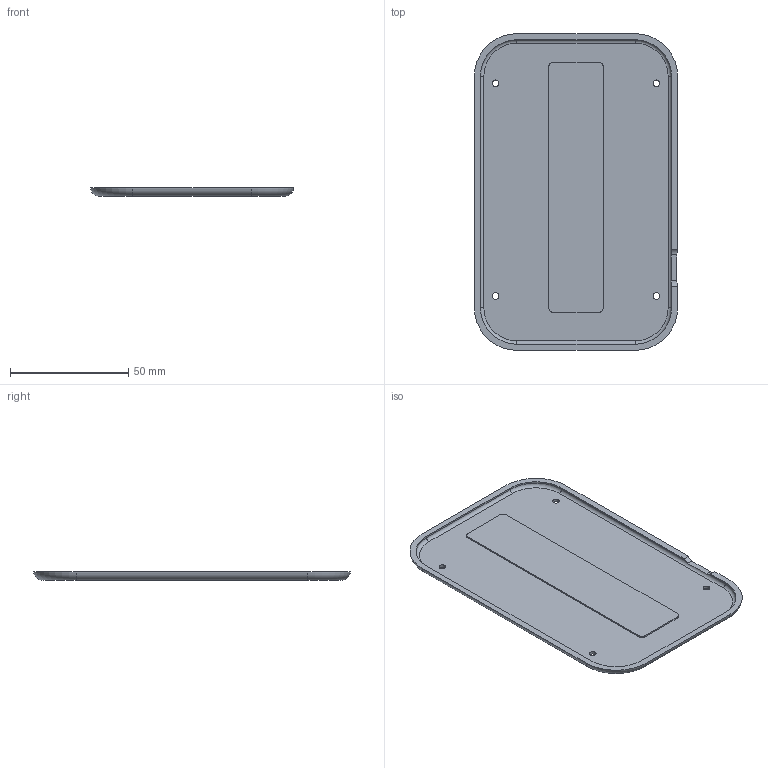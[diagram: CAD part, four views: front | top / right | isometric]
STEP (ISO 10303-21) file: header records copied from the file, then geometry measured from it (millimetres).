
FILE_DESCRIPTION(('Open CASCADE Model'),'2;1');
FILE_NAME('Open CASCADE Shape Model','2026-09-04T20:18:23',('Author'),( 'Open CASCADE'),'Open CASCADE STEP processor 7.7','Open CASCADE 7.7' ,'Unknown');
FILE_SCHEMA(('AUTOMOTIVE_DESIGN { 1 0 10303 214 1 1 1 1 }'));
Length unit declared in the file: millimetre
Products named in the file (1): Open CASCADE STEP translator 7.7 3
Bounding box: 85.98 x 133.98 x 3.7 mm (x, y, z)
Volume: 20314.7 mm3; surface area: 24015.6 mm2
Topology: 1 solids, 1 shells, 52 faces, 127 edges, 82 vertices
Faces by surface type: cylinder 26, plane 18, torus 8
Full cylindrical faces by diameter (mm): 2.8 x4, 5.3 x4
Entity records: 3374 total; most frequent: CARTESIAN_POINT 902, DIRECTION 443, ORIENTED_EDGE 254, PCURVE 254, DEFINITIONAL_REPRESENTATION 254, LINE 197, VECTOR 197, EDGE_CURVE 127
